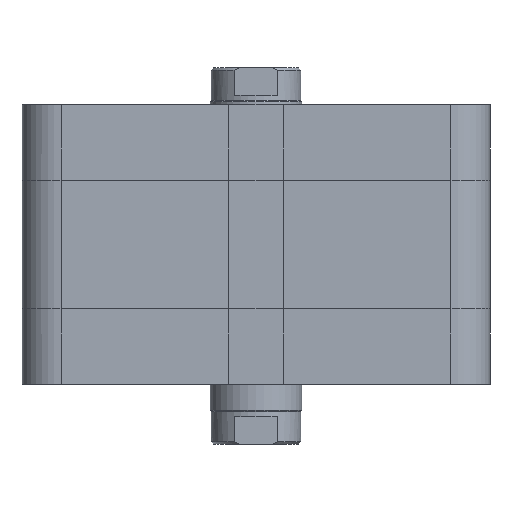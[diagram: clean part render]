
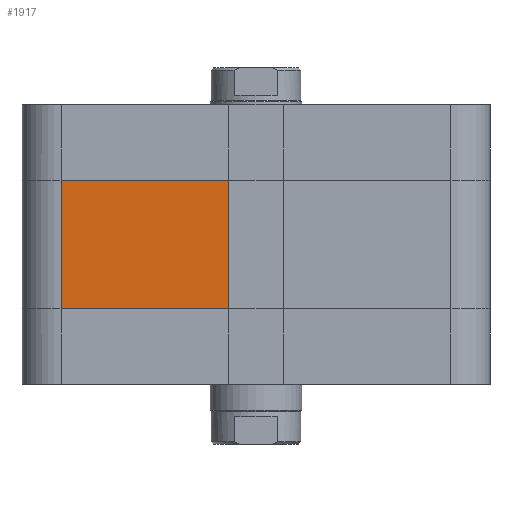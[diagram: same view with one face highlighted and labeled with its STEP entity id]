
A CAD part, front view. The second image highlights one B-rep face of the part: STEP entity #1917.
In plain terms, the highlighted planar face has unit normal (0, -1, 0).
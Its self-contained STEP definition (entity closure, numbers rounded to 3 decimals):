
#1828=CARTESIAN_POINT('',(-42.5,-51.,16.5));
#1829=VERTEX_POINT('',#1828);
#1837=CARTESIAN_POINT('',(-42.5,-51.,44.5));
#1838=VERTEX_POINT('',#1837);
#1839=CARTESIAN_POINT('',(-42.5,-51.,16.5));
#1840=DIRECTION('',(0.0,0.0,1.0));
#1841=VECTOR('',#1840,28.);
#1842=LINE('',#1839,#1841);
#1843=EDGE_CURVE('',#1829,#1838,#1842,.T.);
#1887=CARTESIAN_POINT('',(-6.,-51.0,0.0));
#1888=DIRECTION('',(0.0,-1.0,0.0));
#1889=DIRECTION('',(0.0,0.0,-1.0));
#1890=AXIS2_PLACEMENT_3D('',#1887,#1888,#1889);
#1891=PLANE('',#1890);
#1892=CARTESIAN_POINT('',(-6.,-51.0,16.5));
#1893=VERTEX_POINT('',#1892);
#1894=CARTESIAN_POINT('',(-42.5,-51.,16.5));
#1895=DIRECTION('',(1.0,0.0,0.0));
#1896=VECTOR('',#1895,36.5);
#1897=LINE('',#1894,#1896);
#1898=EDGE_CURVE('',#1829,#1893,#1897,.T.);
#1899=ORIENTED_EDGE('',*,*,#1898,.T.);
#1900=CARTESIAN_POINT('',(-6.,-51.0,44.5));
#1901=VERTEX_POINT('',#1900);
#1902=CARTESIAN_POINT('',(-6.,-51.0,16.5));
#1903=DIRECTION('',(0.0,0.0,1.0));
#1904=VECTOR('',#1903,28.);
#1905=LINE('',#1902,#1904);
#1906=EDGE_CURVE('',#1893,#1901,#1905,.T.);
#1907=ORIENTED_EDGE('',*,*,#1906,.T.);
#1908=CARTESIAN_POINT('',(-42.5,-51.,44.5));
#1909=DIRECTION('',(1.0,0.0,0.0));
#1910=VECTOR('',#1909,36.5);
#1911=LINE('',#1908,#1910);
#1912=EDGE_CURVE('',#1838,#1901,#1911,.T.);
#1913=ORIENTED_EDGE('',*,*,#1912,.F.);
#1914=ORIENTED_EDGE('',*,*,#1843,.F.);
#1915=EDGE_LOOP('',(#1899,#1907,#1913,#1914));
#1916=FACE_OUTER_BOUND('',#1915,.T.);
#1917=ADVANCED_FACE('',(#1916),#1891,.T.);
